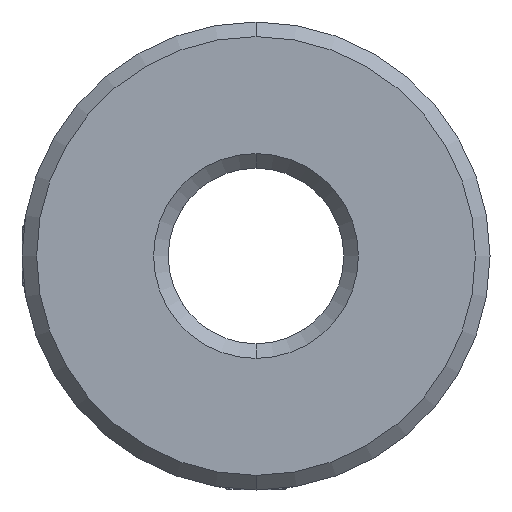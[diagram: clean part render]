
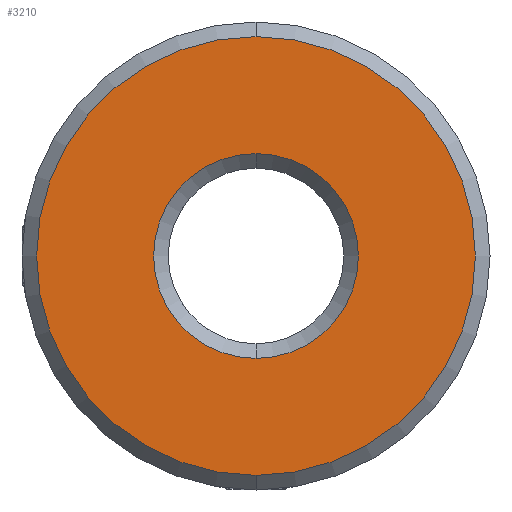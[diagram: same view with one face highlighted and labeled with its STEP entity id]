
A CAD part, front view. The second image highlights one B-rep face of the part: STEP entity #3210.
In plain terms, the highlighted planar face has unit normal (0, -1, 0).
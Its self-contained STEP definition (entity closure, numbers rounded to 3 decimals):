
#129 = FACE_BOUND ( 'NONE', #440, .T. ) ;
#167 = EDGE_LOOP ( 'NONE', ( #1149, #2419 ) ) ;
#224 = VERTEX_POINT ( 'NONE', #1220 ) ;
#298 = AXIS2_PLACEMENT_3D ( 'NONE', #1477, #3381, #1418 ) ;
#440 = EDGE_LOOP ( 'NONE', ( #866, #2552 ) ) ;
#479 = EDGE_CURVE ( 'NONE', #2226, #2138, #1086, .T. ) ;
#621 = EDGE_CURVE ( 'NONE', #1136, #224, #1784, .T. ) ;
#702 = CIRCLE ( 'NONE', #298, 7.5 ) ;
#783 = AXIS2_PLACEMENT_3D ( 'NONE', #2920, #1515, #1809 ) ;
#866 = ORIENTED_EDGE ( 'NONE', *, *, #621, .T. ) ;
#904 = AXIS2_PLACEMENT_3D ( 'NONE', #1324, #3081, #1363 ) ;
#969 = DIRECTION ( 'NONE',  ( 0., 0., 1. ) ) ;
#1014 = CIRCLE ( 'NONE', #904, 3.5 ) ;
#1029 = DIRECTION ( 'NONE',  ( 0., 1., 0. ) ) ;
#1086 = CIRCLE ( 'NONE', #1154, 7.5 ) ;
#1136 = VERTEX_POINT ( 'NONE', #2538 ) ;
#1149 = ORIENTED_EDGE ( 'NONE', *, *, #3073, .T. ) ;
#1154 = AXIS2_PLACEMENT_3D ( 'NONE', #2637, #3478, #969 ) ;
#1220 = CARTESIAN_POINT ( 'NONE',  ( -10.188, -12.277, 3.546 ) ) ;
#1246 = FACE_OUTER_BOUND ( 'NONE', #167, .T. ) ;
#1264 = PLANE ( 'NONE',  #1824 ) ;
#1324 = CARTESIAN_POINT ( 'NONE',  ( -10.188, -12.277, 0.046 ) ) ;
#1363 = DIRECTION ( 'NONE',  ( 0., 0., 1. ) ) ;
#1418 = DIRECTION ( 'NONE',  ( 0., 0., 1. ) ) ;
#1477 = CARTESIAN_POINT ( 'NONE',  ( -10.188, -12.277, 0.046 ) ) ;
#1515 = DIRECTION ( 'NONE',  ( 0., 1., 0. ) ) ;
#1784 = CIRCLE ( 'NONE', #783, 3.5 ) ;
#1809 = DIRECTION ( 'NONE',  ( 0., 0., 1. ) ) ;
#1824 = AXIS2_PLACEMENT_3D ( 'NONE', #2385, #1029, #2115 ) ;
#2115 = DIRECTION ( 'NONE',  ( 0., 0., 1. ) ) ;
#2138 = VERTEX_POINT ( 'NONE', #3126 ) ;
#2226 = VERTEX_POINT ( 'NONE', #3462 ) ;
#2385 = CARTESIAN_POINT ( 'NONE',  ( -10.188, -12.277, 0.046 ) ) ;
#2419 = ORIENTED_EDGE ( 'NONE', *, *, #479, .T. ) ;
#2538 = CARTESIAN_POINT ( 'NONE',  ( -10.188, -12.277, -3.454 ) ) ;
#2552 = ORIENTED_EDGE ( 'NONE', *, *, #3338, .T. ) ;
#2637 = CARTESIAN_POINT ( 'NONE',  ( -10.188, -12.277, 0.046 ) ) ;
#2920 = CARTESIAN_POINT ( 'NONE',  ( -10.188, -12.277, 0.046 ) ) ;
#3073 = EDGE_CURVE ( 'NONE', #2138, #2226, #702, .T. ) ;
#3081 = DIRECTION ( 'NONE',  ( 0., 1., 0. ) ) ;
#3126 = CARTESIAN_POINT ( 'NONE',  ( -10.188, -12.277, 7.546 ) ) ;
#3210 = ADVANCED_FACE ( 'NONE', ( #1246, #129 ), #1264, .F. ) ;
#3338 = EDGE_CURVE ( 'NONE', #224, #1136, #1014, .T. ) ;
#3381 = DIRECTION ( 'NONE',  ( 0., -1., 0. ) ) ;
#3462 = CARTESIAN_POINT ( 'NONE',  ( -10.188, -12.277, -7.454 ) ) ;
#3478 = DIRECTION ( 'NONE',  ( 0., -1., 0. ) ) ;
